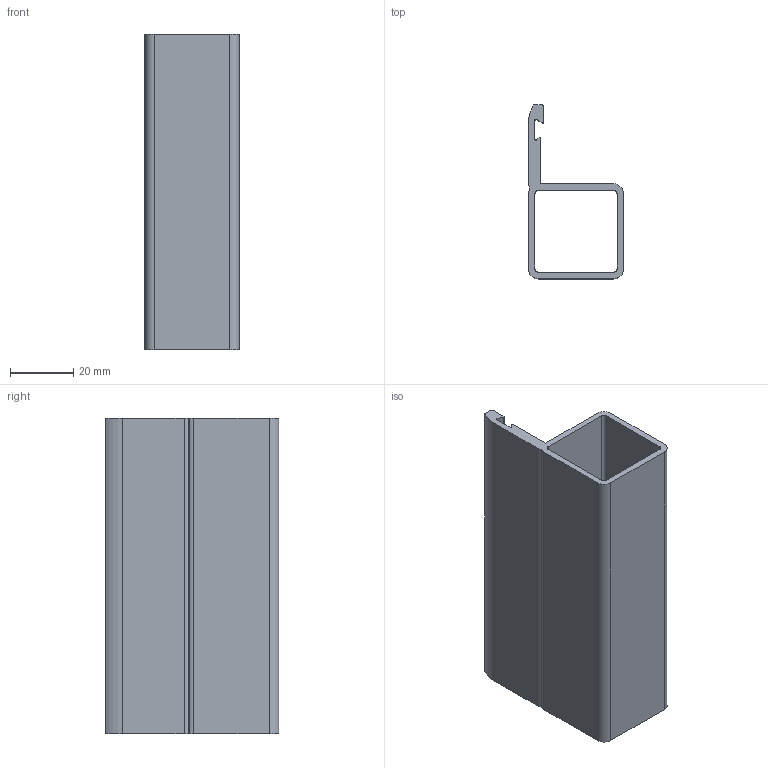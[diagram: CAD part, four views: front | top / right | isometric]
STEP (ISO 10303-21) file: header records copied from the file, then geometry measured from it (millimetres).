
FILE_DESCRIPTION (( 'STEP AP203' ), '1' );
FILE_NAME ('013.030.007.STEP', '2020-07-22T09:10:46', ( '' ), ( '' ), 'SwSTEP 2.0', 'SolidWorks 2018', '' );
FILE_SCHEMA (( 'CONFIG_CONTROL_DESIGN' ));
Length unit declared in the file: millimetre
Products named in the file (1): 013.030.007
Bounding box: 30 x 55 x 100 mm (x, y, z)
Volume: 30573.4 mm3; surface area: 28083.1 mm2
Topology: 1 solids, 1 shells, 33 faces, 93 edges, 62 vertices
Faces by surface type: plane 17, cylinder 16
Entity records: 1160 total; most frequent: DIRECTION 193, CARTESIAN_POINT 189, ORIENTED_EDGE 186, EDGE_CURVE 93, AXIS2_PLACEMENT_3D 66, VERTEX_POINT 62, VECTOR 61, LINE 61
